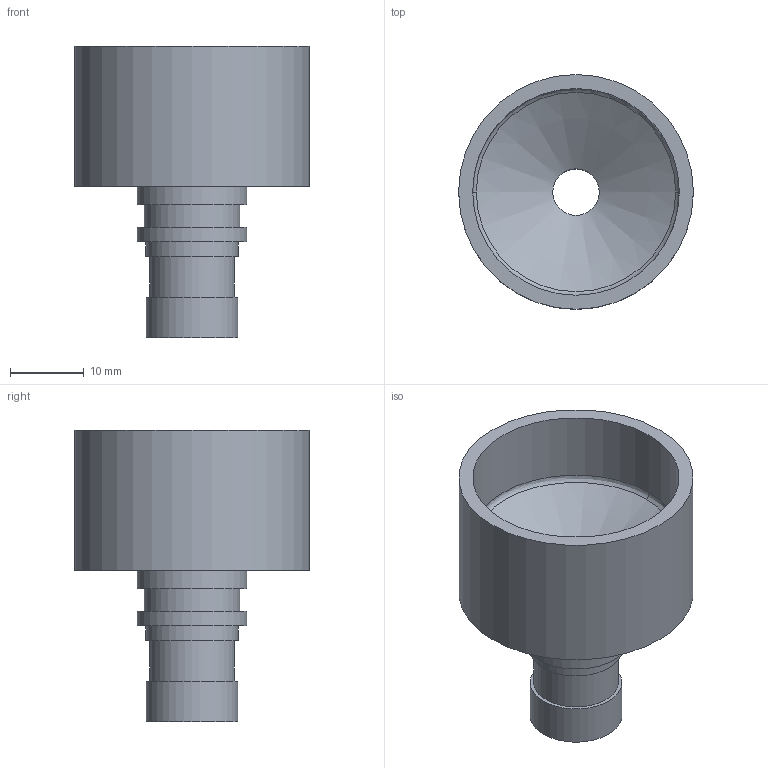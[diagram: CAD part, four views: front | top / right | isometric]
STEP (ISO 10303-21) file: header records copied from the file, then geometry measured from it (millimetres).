
FILE_DESCRIPTION (( 'STEP AP203' ), '1' );
FILE_NAME ('70-9.5R31.8-PH.STEP', '2013-09-19T10:44:58', ( '' ), ( '' ), 'SwSTEP 2.0', 'SolidWorks 2012', '' );
FILE_SCHEMA (( 'CONFIG_CONTROL_DESIGN' ));
Length unit declared in the file: millimetre
Products named in the file (1): 70-9.5R31.8-PH
Bounding box: 31.8 x 31.8 x 39.5 mm (x, y, z)
Volume: 8930.5 mm3; surface area: 5861.7 mm2
Topology: 1 solids, 1 shells, 22 faces, 36 edges, 23 vertices
Faces by surface type: cylinder 10, plane 9, bspline 2, cone 1
Full cylindrical faces by diameter (mm): 6.3 x1, 9.48 x1, 11.48 x1, 12.43 x1, 12.5 x1, 12.9 x1, 14.9 x2, 28 x1, 31.8 x1
Entity records: 567 total; most frequent: CARTESIAN_POINT 107, DIRECTION 88, ORIENTED_EDGE 50, AXIS2_PLACEMENT_3D 44, EDGE_LOOP 42, FACE_OUTER_BOUND 32, EDGE_CURVE 25, CIRCLE 23
